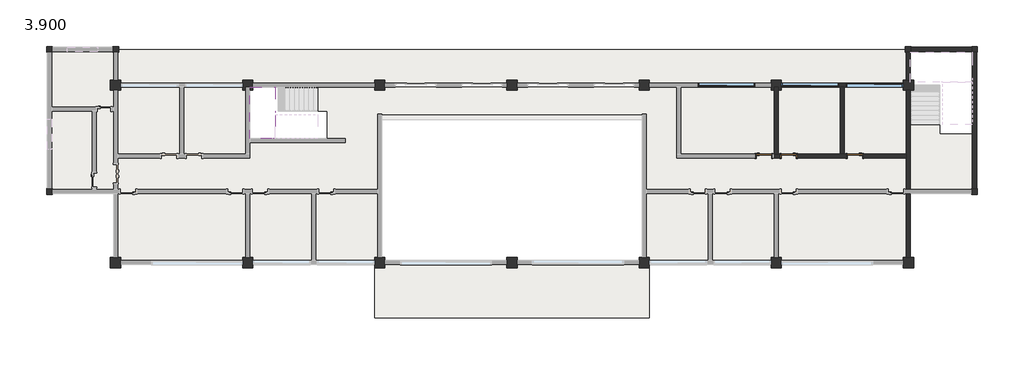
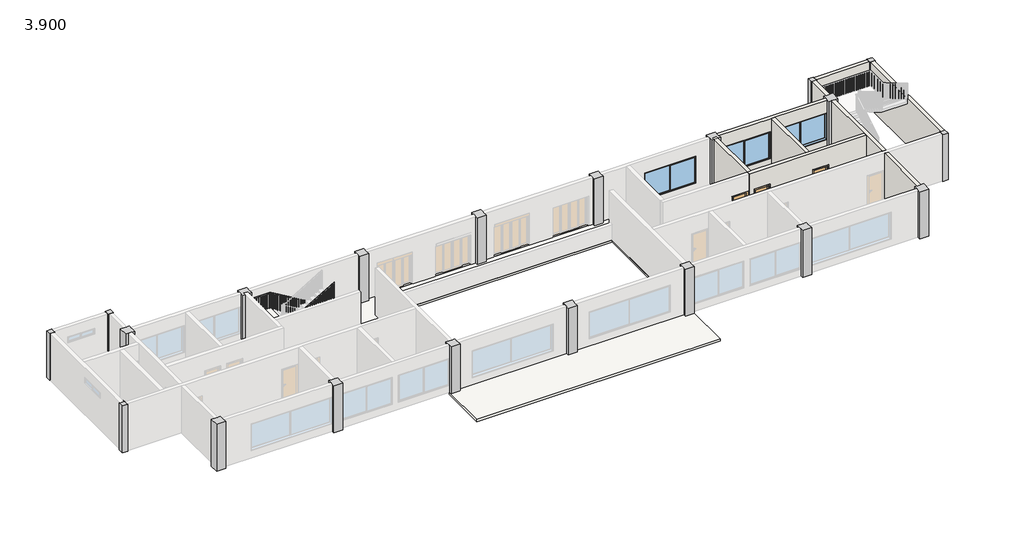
# One storey, part 2 of 4: 20 columns, 8 walls, 4 slabs, 3 doors, 3 windows, 1 railing.
"""IFC4 building model written with IfcOpenShell, lengths in millimetres."""

from ifc_helpers import new_model, si_unit, frame, origin, place, context, project, spatial, polyline, outline, extrude, faceted_brep, transform, mapped, element, save
from components import z1_350mmx350mm_bc06da4f, z1_350mmx350mm_cf0e5e6a, z2_600mmx600mm_ff006ee7, z2_600mmx600mm_cf732799, m1021_ed8d65da, m1021_7d4f1ed1, c3419_631f8b4f

model = new_model("IFC4")

# Units and contexts
model_context = context("Model", 3, world=origin())
ifc_project = project(units=[si_unit("LENGTHUNIT", "METRE", prefix="MILLI")], contexts=[model_context])

# Site, building, storey
site = spatial("IfcSite", under=ifc_project)
building = spatial("IfcBuilding", under=site)
storey = spatial("IfcBuildingStorey", under=building, Name="3.900", Elevation=3900.0)

# Columns
placement = place(None, origin())
z1_350mmx350mm_shape = z1_350mmx350mm_bc06da4f(model_context)
element("IfcColumn", 1, ObjectType="混凝土 - 矩形 - 柱 : Z1-350mmX350mm", at=placement, inside=storey, context=model_context, shape_type="MappedRepresentation", body=[
    mapped(z1_350mmx350mm_shape, transform((-7567.0109656, 7616.6095817, 0.0), x_axis=(1.0, 0.0, 0.0), y_axis=(0.0, 1.0, 0.0), z_axis=(0.0, 0.0, 1.0))),
])
element("IfcColumn", 2, ObjectType="混凝土 - 矩形 - 柱 : Z1-350mmX350mm", at=placement, inside=storey, context=model_context, shape_type="MappedRepresentation", body=[
    mapped(z1_350mmx350mm_shape, transform((-3667.0109656, 7616.6095817, 0.0), x_axis=(1.0, 0.0, 0.0), y_axis=(0.0, 1.0, 0.0), z_axis=(0.0, 0.0, 1.0))),
])
element("IfcColumn", 3, ObjectType="混凝土 - 矩形 - 柱 : Z1-350mmX350mm", at=placement, inside=storey, context=model_context, shape_type="MappedRepresentation", body=[
    mapped(z1_350mmx350mm_shape, transform((-7567.0109656, -783.3904183, 0.0), x_axis=(1.0, 0.0, 0.0), y_axis=(0.0, 1.0, 0.0), z_axis=(0.0, 0.0, 1.0))),
])
z1_350mmx350mm_2_shape = z1_350mmx350mm_cf0e5e6a(model_context)
element("IfcColumn", 4, ObjectType="混凝土 - 矩形 - 柱 : Z1-350mmX350mm", at=placement, inside=storey, context=model_context, shape_type="MappedRepresentation", body=[
    mapped(z1_350mmx350mm_2_shape, transform((47032.9890344, 7616.6095817, 0.0), x_axis=(-1.0, 0.0, 0.0), y_axis=(0.0, -1.0, 0.0), z_axis=(0.0, 0.0, 1.0))),
])
element("IfcColumn", 5, ObjectType="混凝土 - 矩形 - 柱 : Z1-350mmX350mm", at=placement, inside=storey, context=model_context, shape_type="MappedRepresentation", body=[
    mapped(z1_350mmx350mm_2_shape, transform((43132.9890344, 7616.6095817, 0.0), x_axis=(-1.0, 0.0, 0.0), y_axis=(0.0, -1.0, 0.0), z_axis=(0.0, 0.0, 1.0))),
])
element("IfcColumn", 6, ObjectType="混凝土 - 矩形 - 柱 : Z1-350mmX350mm", at=placement, inside=storey, context=model_context, shape_type="MappedRepresentation", body=[
    mapped(z1_350mmx350mm_2_shape, transform((47032.9890344, -783.3904183, 0.0), x_axis=(-1.0, 0.0, 0.0), y_axis=(0.0, -1.0, 0.0), z_axis=(0.0, 0.0, 1.0))),
])
z2_600mmx600mm_shape = z2_600mmx600mm_ff006ee7(model_context)
element("IfcColumn", 7, ObjectType="混凝土 - 矩形 - 柱 : Z2-600mmX600mm", at=placement, inside=storey, context=model_context, shape_type="MappedRepresentation", body=[
    mapped(z2_600mmx600mm_shape, transform((-3667.0109656, 5516.6095817, 0.0), x_axis=(1.0, 0.0, 0.0), y_axis=(0.0, 1.0, 0.0), z_axis=(0.0, 0.0, 1.0))),
])
element("IfcColumn", 8, ObjectType="混凝土 - 矩形 - 柱 : Z2-600mmX600mm", at=placement, inside=storey, context=model_context, shape_type="MappedRepresentation", body=[
    mapped(z2_600mmx600mm_shape, transform((4132.9890344, 5516.6095817, 0.0), x_axis=(1.0, 0.0, 0.0), y_axis=(0.0, 1.0, 0.0), z_axis=(0.0, 0.0, 1.0))),
])
element("IfcColumn", 9, ObjectType="混凝土 - 矩形 - 柱 : Z2-600mmX600mm", at=placement, inside=storey, context=model_context, shape_type="MappedRepresentation", body=[
    mapped(z2_600mmx600mm_shape, transform((11932.9890344, 5516.6095817, 0.0), x_axis=(1.0, 0.0, 0.0), y_axis=(0.0, 1.0, 0.0), z_axis=(0.0, 0.0, 1.0))),
])
element("IfcColumn", 10, ObjectType="混凝土 - 矩形 - 柱 : Z2-600mmX600mm", at=placement, inside=storey, context=model_context, shape_type="MappedRepresentation", body=[
    mapped(z2_600mmx600mm_shape, transform((-3667.0109656, -4983.3904183, 0.0), x_axis=(1.0, 0.0, 0.0), y_axis=(0.0, 1.0, 0.0), z_axis=(0.0, 0.0, 1.0))),
])
element("IfcColumn", 11, ObjectType="混凝土 - 矩形 - 柱 : Z2-600mmX600mm", at=placement, inside=storey, context=model_context, shape_type="MappedRepresentation", body=[
    mapped(z2_600mmx600mm_shape, transform((4132.9890344, -4983.3904183, 0.0), x_axis=(1.0, 0.0, 0.0), y_axis=(0.0, 1.0, 0.0), z_axis=(0.0, 0.0, 1.0))),
])
element("IfcColumn", 12, ObjectType="混凝土 - 矩形 - 柱 : Z2-600mmX600mm", at=placement, inside=storey, context=model_context, shape_type="MappedRepresentation", body=[
    mapped(z2_600mmx600mm_shape, transform((11932.9890344, -4983.3904183, 0.0), x_axis=(1.0, 0.0, 0.0), y_axis=(0.0, 1.0, 0.0), z_axis=(0.0, 0.0, 1.0))),
])
element("IfcColumn", 13, ObjectType="混凝土 - 矩形 - 柱 : Z2-600mmX600mm", at=placement, inside=storey, context=model_context, shape_type="MappedRepresentation", body=[
    mapped(z2_600mmx600mm_shape, transform((19732.9890344, 5516.6095817, 0.0), x_axis=(1.0, 0.0, 0.0), y_axis=(0.0, 1.0, 0.0), z_axis=(0.0, 0.0, 1.0))),
])
element("IfcColumn", 14, ObjectType="混凝土 - 矩形 - 柱 : Z2-600mmX600mm", at=placement, inside=storey, context=model_context, shape_type="MappedRepresentation", body=[
    mapped(z2_600mmx600mm_shape, transform((19732.9890344, -4983.3904183, 0.0), x_axis=(1.0, 0.0, 0.0), y_axis=(0.0, 1.0, 0.0), z_axis=(0.0, 0.0, 1.0))),
])
z2_600mmx600mm_2_shape = z2_600mmx600mm_cf732799(model_context)
element("IfcColumn", 15, ObjectType="混凝土 - 矩形 - 柱 : Z2-600mmX600mm", at=placement, inside=storey, context=model_context, shape_type="MappedRepresentation", body=[
    mapped(z2_600mmx600mm_2_shape, transform((43132.9890344, 5516.6095817, 0.0), x_axis=(-1.0, 0.0, 0.0), y_axis=(0.0, -1.0, 0.0), z_axis=(0.0, 0.0, 1.0))),
])
element("IfcColumn", 16, ObjectType="混凝土 - 矩形 - 柱 : Z2-600mmX600mm", at=placement, inside=storey, context=model_context, shape_type="MappedRepresentation", body=[
    mapped(z2_600mmx600mm_2_shape, transform((35332.9890344, 5516.6095817, 0.0), x_axis=(-1.0, 0.0, 0.0), y_axis=(0.0, -1.0, 0.0), z_axis=(0.0, 0.0, 1.0))),
])
element("IfcColumn", 17, ObjectType="混凝土 - 矩形 - 柱 : Z2-600mmX600mm", at=placement, inside=storey, context=model_context, shape_type="MappedRepresentation", body=[
    mapped(z2_600mmx600mm_2_shape, transform((27532.9890344, 5516.6095817, 0.0), x_axis=(-1.0, 0.0, 0.0), y_axis=(0.0, -1.0, 0.0), z_axis=(0.0, 0.0, 1.0))),
])
element("IfcColumn", 18, ObjectType="混凝土 - 矩形 - 柱 : Z2-600mmX600mm", at=placement, inside=storey, context=model_context, shape_type="MappedRepresentation", body=[
    mapped(z2_600mmx600mm_2_shape, transform((43132.9890344, -4983.3904183, 0.0), x_axis=(-1.0, 0.0, 0.0), y_axis=(0.0, -1.0, 0.0), z_axis=(0.0, 0.0, 1.0))),
])
element("IfcColumn", 19, ObjectType="混凝土 - 矩形 - 柱 : Z2-600mmX600mm", at=placement, inside=storey, context=model_context, shape_type="MappedRepresentation", body=[
    mapped(z2_600mmx600mm_2_shape, transform((35332.9890344, -4983.3904183, 0.0), x_axis=(-1.0, 0.0, 0.0), y_axis=(0.0, -1.0, 0.0), z_axis=(0.0, 0.0, 1.0))),
])
element("IfcColumn", 20, ObjectType="混凝土 - 矩形 - 柱 : Z2-600mmX600mm", at=placement, inside=storey, context=model_context, shape_type="MappedRepresentation", body=[
    mapped(z2_600mmx600mm_2_shape, transform((27532.9890344, -4983.3904183, 0.0), x_axis=(-1.0, 0.0, 0.0), y_axis=(0.0, -1.0, 0.0), z_axis=(0.0, 0.0, 1.0))),
])

# Doors
m1021_shape = m1021_ed8d65da(model_context)
element("IfcDoor", 21, ObjectType="单嵌板木门 1 : M1021", at=placement, inside=storey, context=model_context, shape_type="MappedRepresentation", body=[
    mapped(m1021_shape, transform((34597.9890344, 1316.6095817, 3900.0), x_axis=(1.0, 0.0, 0.0), y_axis=(0.0, 1.0, 0.0), z_axis=(0.0, 0.0, 1.0))),
])
m1021_2_shape = m1021_7d4f1ed1(model_context)
element("IfcDoor", 22, ObjectType="单嵌板木门 1 : M1021", at=placement, inside=storey, context=model_context, shape_type="MappedRepresentation", body=[
    mapped(m1021_2_shape, transform((36067.9890344, 1316.6095817, 3900.0), x_axis=(-1.0, 0.0, 0.0), y_axis=(0.0, -1.0, 0.0), z_axis=(0.0, 0.0, 1.0))),
])
element("IfcDoor", 23, ObjectType="单嵌板木门 1 : M1021", at=placement, inside=storey, context=model_context, shape_type="MappedRepresentation", body=[
    mapped(m1021_2_shape, transform((39967.9890344, 1316.6095817, 3900.0), x_axis=(-1.0, 0.0, 0.0), y_axis=(0.0, -1.0, 0.0), z_axis=(0.0, 0.0, 1.0))),
])

# Railing
element("IfcRailing", 24, ObjectType="1100mm", at=placement, inside=storey, context=model_context, shape_type="SolidModel", body=[
    faceted_brep([(8272.9890344, 5351.2095817, 5165.0), (8272.9890344, 5351.2095817, 5106.9642857), (8272.9890344, 5401.2095817, 5106.9642857), (8272.9890344, 5401.2095817, 5165.0), (5752.9890344, 5351.2095817, 6650.0), (5739.3526707, 5351.2095817, 6600.0), (5739.3526707, 5401.2095817, 6600.0), (5752.9890344, 5401.2095817, 6650.0), (4303.3890344, 5351.2095817, 6650.0), (4303.3890344, 5351.2095817, 6600.0), (4253.3890344, 5401.2095817, 6600.0), (4253.3890344, 5401.2095817, 6650.0), (4303.3890344, 2387.0095817, 6650.0), (4303.3890344, 2387.0095817, 6600.0), (4253.3890344, 2337.0095817, 6600.0), (4253.3890344, 2337.0095817, 6650.0), (5472.9890344, 2387.0095817, 6650.0), (5486.625398, 2387.0095817, 6600.0), (5486.625398, 2337.0095817, 6600.0), (5472.9890344, 2337.0095817, 6650.0), (5752.9890344, 2387.0095817, 6815.0), (5778.3736497, 2387.0095817, 6771.9230769), (5778.3736497, 2337.0095817, 6771.9230769), (5752.9890344, 2337.0095817, 6815.0), (8272.9890344, 2387.0095817, 8300.0), (8272.9890344, 2337.0095817, 8300.0), (8272.9890344, 2337.0095817, 8241.9642857), (8272.9890344, 2387.0095817, 8241.9642857)], [[[0, 1, 2, 3]], [[1, 0, 4, 5]], [[2, 1, 5, 6]], [[3, 2, 6, 7]], [[0, 3, 7, 4]], [[5, 4, 8, 9]], [[6, 5, 9, 10]], [[7, 6, 10, 11]], [[4, 7, 11, 8]], [[9, 8, 12, 13]], [[10, 9, 13, 14]], [[11, 10, 14, 15]], [[8, 11, 15, 12]], [[13, 12, 16, 17]], [[14, 13, 17, 18]], [[15, 14, 18, 19]], [[12, 15, 19, 16]], [[17, 16, 20, 21]], [[18, 17, 21, 22]], [[19, 18, 22, 23]], [[16, 19, 23, 20]], [[24, 25, 26, 27]], [[21, 20, 24, 27]], [[22, 21, 27, 26]], [[23, 22, 26, 25]], [[20, 23, 25, 24]]]),
    extrude(outline(polyline([(8193.3482143, 8190.4890344), (7035.0, 8190.4890344), (7035.0, 8215.4890344), (8208.0803571, 8215.4890344), (8193.3482143, 8190.4890344)])), frame((0.0, 2349.5095817, 0.0), z_axis=(0.0, 1.0, 0.0), x_axis=(0.0, 0.0, 1.0)), (0.0, 0.0, 1.0), 25.0),
    extrude(outline(polyline([(8110.8482143, 8050.4890344), (7035.0, 8050.4890344), (7035.0, 8075.4890344), (8125.5803571, 8075.4890344), (8110.8482143, 8050.4890344)])), frame((0.0, 2349.5095817, 0.0), z_axis=(0.0, 1.0, 0.0), x_axis=(0.0, 0.0, 1.0)), (0.0, 0.0, 1.0), 25.0),
    extrude(outline(polyline([(8028.3482143, 7910.4890344), (6870.0, 7910.4890344), (6870.0, 7935.4890344), (8043.0803571, 7935.4890344), (8028.3482143, 7910.4890344)])), frame((0.0, 2349.5095817, 0.0), z_axis=(0.0, 1.0, 0.0), x_axis=(0.0, 0.0, 1.0)), (0.0, 0.0, 1.0), 25.0),
    extrude(outline(polyline([(7945.8482143, 7770.4890344), (6870.0, 7770.4890344), (6870.0, 7795.4890344), (7960.5803571, 7795.4890344), (7945.8482143, 7770.4890344)])), frame((0.0, 2349.5095817, 0.0), z_axis=(0.0, 1.0, 0.0), x_axis=(0.0, 0.0, 1.0)), (0.0, 0.0, 1.0), 25.0),
    extrude(outline(polyline([(7863.3482143, 7630.4890344), (6705.0, 7630.4890344), (6705.0, 7655.4890344), (7878.0803571, 7655.4890344), (7863.3482143, 7630.4890344)])), frame((0.0, 2349.5095817, 0.0), z_axis=(0.0, 1.0, 0.0), x_axis=(0.0, 0.0, 1.0)), (0.0, 0.0, 1.0), 25.0),
    extrude(outline(polyline([(7780.8482143, 7490.4890344), (6705.0, 7490.4890344), (6705.0, 7515.4890344), (7795.5803571, 7515.4890344), (7780.8482143, 7490.4890344)])), frame((0.0, 2349.5095817, 0.0), z_axis=(0.0, 1.0, 0.0), x_axis=(0.0, 0.0, 1.0)), (0.0, 0.0, 1.0), 25.0),
    extrude(outline(polyline([(7698.3482143, 7350.4890344), (6540.0, 7350.4890344), (6540.0, 7375.4890344), (7713.0803571, 7375.4890344), (7698.3482143, 7350.4890344)])), frame((0.0, 2349.5095817, 0.0), z_axis=(0.0, 1.0, 0.0), x_axis=(0.0, 0.0, 1.0)), (0.0, 0.0, 1.0), 25.0),
    extrude(outline(polyline([(7615.8482143, 7210.4890344), (6540.0, 7210.4890344), (6540.0, 7235.4890344), (7630.5803571, 7235.4890344), (7615.8482143, 7210.4890344)])), frame((0.0, 2349.5095817, 0.0), z_axis=(0.0, 1.0, 0.0), x_axis=(0.0, 0.0, 1.0)), (0.0, 0.0, 1.0), 25.0),
    extrude(outline(polyline([(7533.3482143, 7070.4890344), (6375.0, 7070.4890344), (6375.0, 7095.4890344), (7548.0803571, 7095.4890344), (7533.3482143, 7070.4890344)])), frame((0.0, 2349.5095817, 0.0), z_axis=(0.0, 1.0, 0.0), x_axis=(0.0, 0.0, 1.0)), (0.0, 0.0, 1.0), 25.0),
    extrude(outline(polyline([(7450.8482143, 6930.4890344), (6375.0, 6930.4890344), (6375.0, 6955.4890344), (7465.5803571, 6955.4890344), (7450.8482143, 6930.4890344)])), frame((0.0, 2349.5095817, 0.0), z_axis=(0.0, 1.0, 0.0), x_axis=(0.0, 0.0, 1.0)), (0.0, 0.0, 1.0), 25.0),
    extrude(outline(polyline([(7368.3482143, 6790.4890344), (6210.0, 6790.4890344), (6210.0, 6815.4890344), (7383.0803571, 6815.4890344), (7368.3482143, 6790.4890344)])), frame((0.0, 2349.5095817, 0.0), z_axis=(0.0, 1.0, 0.0), x_axis=(0.0, 0.0, 1.0)), (0.0, 0.0, 1.0), 25.0),
    extrude(outline(polyline([(7285.8482143, 6650.4890344), (6210.0, 6650.4890344), (6210.0, 6675.4890344), (7300.5803571, 6675.4890344), (7285.8482143, 6650.4890344)])), frame((0.0, 2349.5095817, 0.0), z_axis=(0.0, 1.0, 0.0), x_axis=(0.0, 0.0, 1.0)), (0.0, 0.0, 1.0), 25.0),
    extrude(outline(polyline([(7203.3482143, 6510.4890344), (6045.0, 6510.4890344), (6045.0, 6535.4890344), (7218.0803571, 6535.4890344), (7203.3482143, 6510.4890344)])), frame((0.0, 2349.5095817, 0.0), z_axis=(0.0, 1.0, 0.0), x_axis=(0.0, 0.0, 1.0)), (0.0, 0.0, 1.0), 25.0),
    extrude(outline(polyline([(7120.8482143, 6370.4890344), (6045.0, 6370.4890344), (6045.0, 6395.4890344), (7135.5803571, 6395.4890344), (7120.8482143, 6370.4890344)])), frame((0.0, 2349.5095817, 0.0), z_axis=(0.0, 1.0, 0.0), x_axis=(0.0, 0.0, 1.0)), (0.0, 0.0, 1.0), 25.0),
    extrude(outline(polyline([(7038.3482143, 6230.4890344), (5880.0, 6230.4890344), (5880.0, 6255.4890344), (7053.0803571, 6255.4890344), (7038.3482143, 6230.4890344)])), frame((0.0, 2349.5095817, 0.0), z_axis=(0.0, 1.0, 0.0), x_axis=(0.0, 0.0, 1.0)), (0.0, 0.0, 1.0), 25.0),
    extrude(outline(polyline([(6955.8482143, 6090.4890344), (5880.0, 6090.4890344), (5880.0, 6115.4890344), (6970.5803571, 6115.4890344), (6955.8482143, 6090.4890344)])), frame((0.0, 2349.5095817, 0.0), z_axis=(0.0, 1.0, 0.0), x_axis=(0.0, 0.0, 1.0)), (0.0, 0.0, 1.0), 25.0),
    extrude(outline(polyline([(6873.3482143, 5950.4890344), (5715.0, 5950.4890344), (5715.0, 5975.4890344), (6888.0803571, 5975.4890344), (6873.3482143, 5950.4890344)])), frame((0.0, 2349.5095817, 0.0), z_axis=(0.0, 1.0, 0.0), x_axis=(0.0, 0.0, 1.0)), (0.0, 0.0, 1.0), 25.0),
    extrude(outline(polyline([(6790.8482143, 5810.4890344), (5715.0, 5810.4890344), (5715.0, 5835.4890344), (6805.5803571, 5835.4890344), (6790.8482143, 5810.4890344)])), frame((0.0, 2349.5095817, 0.0), z_axis=(0.0, 1.0, 0.0), x_axis=(0.0, 0.0, 1.0)), (0.0, 0.0, 1.0), 25.0),
    extrude(outline(polyline([(6746.8875, 5735.8890344), (5550.0, 5735.8890344), (5550.0, 5760.8890344), (6761.6196429, 5760.8890344), (6746.8875, 5735.8890344)])), frame((0.0, 2349.5095817, 0.0), z_axis=(0.0, 1.0, 0.0), x_axis=(0.0, 0.0, 1.0)), (0.0, 0.0, 1.0), 25.0),
    extrude(outline(polyline([(6664.3875, 5595.8890344), (5550.0, 5595.8890344), (5550.0, 5620.8890344), (6679.1196429, 5620.8890344), (6664.3875, 5595.8890344)])), frame((0.0, 2349.5095817, 0.0), z_axis=(0.0, 1.0, 0.0), x_axis=(0.0, 0.0, 1.0)), (0.0, 0.0, 1.0), 25.0),
    extrude(outline(polyline([(5455.8890344, 2349.5095817), (5455.8890344, 2374.5095817), (5480.8890344, 2374.5095817), (5480.8890344, 2349.5095817), (5455.8890344, 2349.5095817)])), frame((0.0, 0.0, 5550.0), z_axis=(0.0, 0.0, 1.0), x_axis=(1.0, 0.0, 0.0)), (0.0, 0.0, 1.0), 1050.0),
    extrude(outline(polyline([(5315.8890344, 2349.5095817), (5315.8890344, 2374.5095817), (5340.8890344, 2374.5095817), (5340.8890344, 2349.5095817), (5315.8890344, 2349.5095817)])), frame((0.0, 0.0, 5550.0), z_axis=(0.0, 0.0, 1.0), x_axis=(1.0, 0.0, 0.0)), (0.0, 0.0, 1.0), 1050.0),
    extrude(outline(polyline([(5175.8890344, 2349.5095817), (5175.8890344, 2374.5095817), (5200.8890344, 2374.5095817), (5200.8890344, 2349.5095817), (5175.8890344, 2349.5095817)])), frame((0.0, 0.0, 5550.0), z_axis=(0.0, 0.0, 1.0), x_axis=(1.0, 0.0, 0.0)), (0.0, 0.0, 1.0), 1050.0),
    extrude(outline(polyline([(5035.8890344, 2349.5095817), (5035.8890344, 2374.5095817), (5060.8890344, 2374.5095817), (5060.8890344, 2349.5095817), (5035.8890344, 2349.5095817)])), frame((0.0, 0.0, 5550.0), z_axis=(0.0, 0.0, 1.0), x_axis=(1.0, 0.0, 0.0)), (0.0, 0.0, 1.0), 1050.0),
    extrude(outline(polyline([(4895.8890344, 2349.5095817), (4895.8890344, 2374.5095817), (4920.8890344, 2374.5095817), (4920.8890344, 2349.5095817), (4895.8890344, 2349.5095817)])), frame((0.0, 0.0, 5550.0), z_axis=(0.0, 0.0, 1.0), x_axis=(1.0, 0.0, 0.0)), (0.0, 0.0, 1.0), 1050.0),
    extrude(outline(polyline([(4755.8890344, 2349.5095817), (4755.8890344, 2374.5095817), (4780.8890344, 2374.5095817), (4780.8890344, 2349.5095817), (4755.8890344, 2349.5095817)])), frame((0.0, 0.0, 5550.0), z_axis=(0.0, 0.0, 1.0), x_axis=(1.0, 0.0, 0.0)), (0.0, 0.0, 1.0), 1050.0),
    extrude(outline(polyline([(4615.8890344, 2349.5095817), (4615.8890344, 2374.5095817), (4640.8890344, 2374.5095817), (4640.8890344, 2349.5095817), (4615.8890344, 2349.5095817)])), frame((0.0, 0.0, 5550.0), z_axis=(0.0, 0.0, 1.0), x_axis=(1.0, 0.0, 0.0)), (0.0, 0.0, 1.0), 1050.0),
    extrude(outline(polyline([(4475.8890344, 2349.5095817), (4475.8890344, 2374.5095817), (4500.8890344, 2374.5095817), (4500.8890344, 2349.5095817), (4475.8890344, 2349.5095817)])), frame((0.0, 0.0, 5550.0), z_axis=(0.0, 0.0, 1.0), x_axis=(1.0, 0.0, 0.0)), (0.0, 0.0, 1.0), 1050.0),
    extrude(outline(polyline([(4335.8890344, 2349.5095817), (4335.8890344, 2374.5095817), (4360.8890344, 2374.5095817), (4360.8890344, 2349.5095817), (4335.8890344, 2349.5095817)])), frame((0.0, 0.0, 5550.0), z_axis=(0.0, 0.0, 1.0), x_axis=(1.0, 0.0, 0.0)), (0.0, 0.0, 1.0), 1050.0),
    extrude(outline(polyline([(4265.8890344, 2378.7095817), (4290.8890344, 2378.7095817), (4290.8890344, 2353.7095817), (4265.8890344, 2353.7095817), (4265.8890344, 2378.7095817)])), frame((0.0, 0.0, 5550.0), z_axis=(0.0, 0.0, 1.0), x_axis=(1.0, 0.0, 0.0)), (0.0, 0.0, 1.0), 1050.0),
    extrude(outline(polyline([(4265.8890344, 2518.7095817), (4290.8890344, 2518.7095817), (4290.8890344, 2493.7095817), (4265.8890344, 2493.7095817), (4265.8890344, 2518.7095817)])), frame((0.0, 0.0, 5550.0), z_axis=(0.0, 0.0, 1.0), x_axis=(1.0, 0.0, 0.0)), (0.0, 0.0, 1.0), 1050.0),
    extrude(outline(polyline([(4265.8890344, 2658.7095817), (4290.8890344, 2658.7095817), (4290.8890344, 2633.7095817), (4265.8890344, 2633.7095817), (4265.8890344, 2658.7095817)])), frame((0.0, 0.0, 5550.0), z_axis=(0.0, 0.0, 1.0), x_axis=(1.0, 0.0, 0.0)), (0.0, 0.0, 1.0), 1050.0),
    extrude(outline(polyline([(4265.8890344, 2798.7095817), (4290.8890344, 2798.7095817), (4290.8890344, 2773.7095817), (4265.8890344, 2773.7095817), (4265.8890344, 2798.7095817)])), frame((0.0, 0.0, 5550.0), z_axis=(0.0, 0.0, 1.0), x_axis=(1.0, 0.0, 0.0)), (0.0, 0.0, 1.0), 1050.0),
    extrude(outline(polyline([(4265.8890344, 2938.7095817), (4290.8890344, 2938.7095817), (4290.8890344, 2913.7095817), (4265.8890344, 2913.7095817), (4265.8890344, 2938.7095817)])), frame((0.0, 0.0, 5550.0), z_axis=(0.0, 0.0, 1.0), x_axis=(1.0, 0.0, 0.0)), (0.0, 0.0, 1.0), 1050.0),
    extrude(outline(polyline([(4265.8890344, 3078.7095817), (4290.8890344, 3078.7095817), (4290.8890344, 3053.7095817), (4265.8890344, 3053.7095817), (4265.8890344, 3078.7095817)])), frame((0.0, 0.0, 5550.0), z_axis=(0.0, 0.0, 1.0), x_axis=(1.0, 0.0, 0.0)), (0.0, 0.0, 1.0), 1050.0),
    extrude(outline(polyline([(4265.8890344, 3218.7095817), (4290.8890344, 3218.7095817), (4290.8890344, 3193.7095817), (4265.8890344, 3193.7095817), (4265.8890344, 3218.7095817)])), frame((0.0, 0.0, 5550.0), z_axis=(0.0, 0.0, 1.0), x_axis=(1.0, 0.0, 0.0)), (0.0, 0.0, 1.0), 1050.0),
    extrude(outline(polyline([(4265.8890344, 3358.7095817), (4290.8890344, 3358.7095817), (4290.8890344, 3333.7095817), (4265.8890344, 3333.7095817), (4265.8890344, 3358.7095817)])), frame((0.0, 0.0, 5550.0), z_axis=(0.0, 0.0, 1.0), x_axis=(1.0, 0.0, 0.0)), (0.0, 0.0, 1.0), 1050.0),
    extrude(outline(polyline([(4265.8890344, 3498.7095817), (4290.8890344, 3498.7095817), (4290.8890344, 3473.7095817), (4265.8890344, 3473.7095817), (4265.8890344, 3498.7095817)])), frame((0.0, 0.0, 5550.0), z_axis=(0.0, 0.0, 1.0), x_axis=(1.0, 0.0, 0.0)), (0.0, 0.0, 1.0), 1050.0),
    extrude(outline(polyline([(4265.8890344, 3638.7095817), (4290.8890344, 3638.7095817), (4290.8890344, 3613.7095817), (4265.8890344, 3613.7095817), (4265.8890344, 3638.7095817)])), frame((0.0, 0.0, 5550.0), z_axis=(0.0, 0.0, 1.0), x_axis=(1.0, 0.0, 0.0)), (0.0, 0.0, 1.0), 1050.0),
    extrude(outline(polyline([(4265.8890344, 3778.7095817), (4290.8890344, 3778.7095817), (4290.8890344, 3753.7095817), (4265.8890344, 3753.7095817), (4265.8890344, 3778.7095817)])), frame((0.0, 0.0, 5550.0), z_axis=(0.0, 0.0, 1.0), x_axis=(1.0, 0.0, 0.0)), (0.0, 0.0, 1.0), 1050.0),
    extrude(outline(polyline([(4265.8890344, 3918.7095817), (4290.8890344, 3918.7095817), (4290.8890344, 3893.7095817), (4265.8890344, 3893.7095817), (4265.8890344, 3918.7095817)])), frame((0.0, 0.0, 5550.0), z_axis=(0.0, 0.0, 1.0), x_axis=(1.0, 0.0, 0.0)), (0.0, 0.0, 1.0), 1050.0),
    extrude(outline(polyline([(4265.8890344, 4058.7095817), (4290.8890344, 4058.7095817), (4290.8890344, 4033.7095817), (4265.8890344, 4033.7095817), (4265.8890344, 4058.7095817)])), frame((0.0, 0.0, 5550.0), z_axis=(0.0, 0.0, 1.0), x_axis=(1.0, 0.0, 0.0)), (0.0, 0.0, 1.0), 1050.0),
    extrude(outline(polyline([(4265.8890344, 4198.7095817), (4290.8890344, 4198.7095817), (4290.8890344, 4173.7095817), (4265.8890344, 4173.7095817), (4265.8890344, 4198.7095817)])), frame((0.0, 0.0, 5550.0), z_axis=(0.0, 0.0, 1.0), x_axis=(1.0, 0.0, 0.0)), (0.0, 0.0, 1.0), 1050.0),
    extrude(outline(polyline([(4265.8890344, 4338.7095817), (4290.8890344, 4338.7095817), (4290.8890344, 4313.7095817), (4265.8890344, 4313.7095817), (4265.8890344, 4338.7095817)])), frame((0.0, 0.0, 5550.0), z_axis=(0.0, 0.0, 1.0), x_axis=(1.0, 0.0, 0.0)), (0.0, 0.0, 1.0), 1050.0),
    extrude(outline(polyline([(4265.8890344, 4478.7095817), (4290.8890344, 4478.7095817), (4290.8890344, 4453.7095817), (4265.8890344, 4453.7095817), (4265.8890344, 4478.7095817)])), frame((0.0, 0.0, 5550.0), z_axis=(0.0, 0.0, 1.0), x_axis=(1.0, 0.0, 0.0)), (0.0, 0.0, 1.0), 1050.0),
    extrude(outline(polyline([(4265.8890344, 4618.7095817), (4290.8890344, 4618.7095817), (4290.8890344, 4593.7095817), (4265.8890344, 4593.7095817), (4265.8890344, 4618.7095817)])), frame((0.0, 0.0, 5550.0), z_axis=(0.0, 0.0, 1.0), x_axis=(1.0, 0.0, 0.0)), (0.0, 0.0, 1.0), 1050.0),
    extrude(outline(polyline([(4265.8890344, 4758.7095817), (4290.8890344, 4758.7095817), (4290.8890344, 4733.7095817), (4265.8890344, 4733.7095817), (4265.8890344, 4758.7095817)])), frame((0.0, 0.0, 5550.0), z_axis=(0.0, 0.0, 1.0), x_axis=(1.0, 0.0, 0.0)), (0.0, 0.0, 1.0), 1050.0),
    extrude(outline(polyline([(4265.8890344, 4898.7095817), (4290.8890344, 4898.7095817), (4290.8890344, 4873.7095817), (4265.8890344, 4873.7095817), (4265.8890344, 4898.7095817)])), frame((0.0, 0.0, 5550.0), z_axis=(0.0, 0.0, 1.0), x_axis=(1.0, 0.0, 0.0)), (0.0, 0.0, 1.0), 1050.0),
    extrude(outline(polyline([(4265.8890344, 5038.7095817), (4290.8890344, 5038.7095817), (4290.8890344, 5013.7095817), (4265.8890344, 5013.7095817), (4265.8890344, 5038.7095817)])), frame((0.0, 0.0, 5550.0), z_axis=(0.0, 0.0, 1.0), x_axis=(1.0, 0.0, 0.0)), (0.0, 0.0, 1.0), 1050.0),
    extrude(outline(polyline([(4265.8890344, 5178.7095817), (4290.8890344, 5178.7095817), (4290.8890344, 5153.7095817), (4265.8890344, 5153.7095817), (4265.8890344, 5178.7095817)])), frame((0.0, 0.0, 5550.0), z_axis=(0.0, 0.0, 1.0), x_axis=(1.0, 0.0, 0.0)), (0.0, 0.0, 1.0), 1050.0),
    extrude(outline(polyline([(4265.8890344, 5318.7095817), (4290.8890344, 5318.7095817), (4290.8890344, 5293.7095817), (4265.8890344, 5293.7095817), (4265.8890344, 5318.7095817)])), frame((0.0, 0.0, 5550.0), z_axis=(0.0, 0.0, 1.0), x_axis=(1.0, 0.0, 0.0)), (0.0, 0.0, 1.0), 1050.0),
    extrude(outline(polyline([(4295.4890344, 5388.7095817), (4295.4890344, 5363.7095817), (4270.4890344, 5363.7095817), (4270.4890344, 5388.7095817), (4295.4890344, 5388.7095817)])), frame((0.0, 0.0, 5550.0), z_axis=(0.0, 0.0, 1.0), x_axis=(1.0, 0.0, 0.0)), (0.0, 0.0, 1.0), 1050.0),
    extrude(outline(polyline([(4435.4890344, 5388.7095817), (4435.4890344, 5363.7095817), (4410.4890344, 5363.7095817), (4410.4890344, 5388.7095817), (4435.4890344, 5388.7095817)])), frame((0.0, 0.0, 5550.0), z_axis=(0.0, 0.0, 1.0), x_axis=(1.0, 0.0, 0.0)), (0.0, 0.0, 1.0), 1050.0),
    extrude(outline(polyline([(4575.4890344, 5388.7095817), (4575.4890344, 5363.7095817), (4550.4890344, 5363.7095817), (4550.4890344, 5388.7095817), (4575.4890344, 5388.7095817)])), frame((0.0, 0.0, 5550.0), z_axis=(0.0, 0.0, 1.0), x_axis=(1.0, 0.0, 0.0)), (0.0, 0.0, 1.0), 1050.0),
    extrude(outline(polyline([(4715.4890344, 5388.7095817), (4715.4890344, 5363.7095817), (4690.4890344, 5363.7095817), (4690.4890344, 5388.7095817), (4715.4890344, 5388.7095817)])), frame((0.0, 0.0, 5550.0), z_axis=(0.0, 0.0, 1.0), x_axis=(1.0, 0.0, 0.0)), (0.0, 0.0, 1.0), 1050.0),
    extrude(outline(polyline([(4855.4890344, 5388.7095817), (4855.4890344, 5363.7095817), (4830.4890344, 5363.7095817), (4830.4890344, 5388.7095817), (4855.4890344, 5388.7095817)])), frame((0.0, 0.0, 5550.0), z_axis=(0.0, 0.0, 1.0), x_axis=(1.0, 0.0, 0.0)), (0.0, 0.0, 1.0), 1050.0),
    extrude(outline(polyline([(4995.4890344, 5388.7095817), (4995.4890344, 5363.7095817), (4970.4890344, 5363.7095817), (4970.4890344, 5388.7095817), (4995.4890344, 5388.7095817)])), frame((0.0, 0.0, 5550.0), z_axis=(0.0, 0.0, 1.0), x_axis=(1.0, 0.0, 0.0)), (0.0, 0.0, 1.0), 1050.0),
    extrude(outline(polyline([(5135.4890344, 5388.7095817), (5135.4890344, 5363.7095817), (5110.4890344, 5363.7095817), (5110.4890344, 5388.7095817), (5135.4890344, 5388.7095817)])), frame((0.0, 0.0, 5550.0), z_axis=(0.0, 0.0, 1.0), x_axis=(1.0, 0.0, 0.0)), (0.0, 0.0, 1.0), 1050.0),
    extrude(outline(polyline([(5275.4890344, 5388.7095817), (5275.4890344, 5363.7095817), (5250.4890344, 5363.7095817), (5250.4890344, 5388.7095817), (5275.4890344, 5388.7095817)])), frame((0.0, 0.0, 5550.0), z_axis=(0.0, 0.0, 1.0), x_axis=(1.0, 0.0, 0.0)), (0.0, 0.0, 1.0), 1050.0),
    extrude(outline(polyline([(5415.4890344, 5388.7095817), (5415.4890344, 5363.7095817), (5390.4890344, 5363.7095817), (5390.4890344, 5388.7095817), (5415.4890344, 5388.7095817)])), frame((0.0, 0.0, 5550.0), z_axis=(0.0, 0.0, 1.0), x_axis=(1.0, 0.0, 0.0)), (0.0, 0.0, 1.0), 1050.0),
    extrude(outline(polyline([(5555.4890344, 5388.7095817), (5555.4890344, 5363.7095817), (5530.4890344, 5363.7095817), (5530.4890344, 5388.7095817), (5555.4890344, 5388.7095817)])), frame((0.0, 0.0, 5550.0), z_axis=(0.0, 0.0, 1.0), x_axis=(1.0, 0.0, 0.0)), (0.0, 0.0, 1.0), 1050.0),
    extrude(outline(polyline([(5695.4890344, 5388.7095817), (5695.4890344, 5363.7095817), (5670.4890344, 5363.7095817), (5670.4890344, 5388.7095817), (5695.4890344, 5388.7095817)])), frame((0.0, 0.0, 5550.0), z_axis=(0.0, 0.0, 1.0), x_axis=(1.0, 0.0, 0.0)), (0.0, 0.0, 1.0), 1050.0),
    extrude(outline(polyline([(5385.0, 5835.4890344), (6543.3482143, 5835.4890344), (6558.0803571, 5810.4890344), (5385.0, 5810.4890344), (5385.0, 5835.4890344)])), frame((0.0, 5363.7095817, 0.0), z_axis=(0.0, 1.0, 0.0), x_axis=(0.0, 0.0, 1.0)), (0.0, 0.0, 1.0), 25.0),
    extrude(outline(polyline([(5385.0, 5975.4890344), (6460.8482143, 5975.4890344), (6475.5803571, 5950.4890344), (5385.0, 5950.4890344), (5385.0, 5975.4890344)])), frame((0.0, 5363.7095817, 0.0), z_axis=(0.0, 1.0, 0.0), x_axis=(0.0, 0.0, 1.0)), (0.0, 0.0, 1.0), 25.0),
    extrude(outline(polyline([(5220.0, 6115.4890344), (6378.3482143, 6115.4890344), (6393.0803571, 6090.4890344), (5220.0, 6090.4890344), (5220.0, 6115.4890344)])), frame((0.0, 5363.7095817, 0.0), z_axis=(0.0, 1.0, 0.0), x_axis=(0.0, 0.0, 1.0)), (0.0, 0.0, 1.0), 25.0),
    extrude(outline(polyline([(5220.0, 6255.4890344), (6295.8482143, 6255.4890344), (6310.5803571, 6230.4890344), (5220.0, 6230.4890344), (5220.0, 6255.4890344)])), frame((0.0, 5363.7095817, 0.0), z_axis=(0.0, 1.0, 0.0), x_axis=(0.0, 0.0, 1.0)), (0.0, 0.0, 1.0), 25.0),
    extrude(outline(polyline([(5055.0, 6395.4890344), (6213.3482143, 6395.4890344), (6228.0803571, 6370.4890344), (5055.0, 6370.4890344), (5055.0, 6395.4890344)])), frame((0.0, 5363.7095817, 0.0), z_axis=(0.0, 1.0, 0.0), x_axis=(0.0, 0.0, 1.0)), (0.0, 0.0, 1.0), 25.0),
    extrude(outline(polyline([(5055.0, 6535.4890344), (6130.8482143, 6535.4890344), (6145.5803571, 6510.4890344), (5055.0, 6510.4890344), (5055.0, 6535.4890344)])), frame((0.0, 5363.7095817, 0.0), z_axis=(0.0, 1.0, 0.0), x_axis=(0.0, 0.0, 1.0)), (0.0, 0.0, 1.0), 25.0),
    extrude(outline(polyline([(4890.0, 6675.4890344), (6048.3482143, 6675.4890344), (6063.0803571, 6650.4890344), (4890.0, 6650.4890344), (4890.0, 6675.4890344)])), frame((0.0, 5363.7095817, 0.0), z_axis=(0.0, 1.0, 0.0), x_axis=(0.0, 0.0, 1.0)), (0.0, 0.0, 1.0), 25.0),
    extrude(outline(polyline([(4890.0, 6815.4890344), (5965.8482143, 6815.4890344), (5980.5803571, 6790.4890344), (4890.0, 6790.4890344), (4890.0, 6815.4890344)])), frame((0.0, 5363.7095817, 0.0), z_axis=(0.0, 1.0, 0.0), x_axis=(0.0, 0.0, 1.0)), (0.0, 0.0, 1.0), 25.0),
    extrude(outline(polyline([(4725.0, 6955.4890344), (5883.3482143, 6955.4890344), (5898.0803571, 6930.4890344), (4725.0, 6930.4890344), (4725.0, 6955.4890344)])), frame((0.0, 5363.7095817, 0.0), z_axis=(0.0, 1.0, 0.0), x_axis=(0.0, 0.0, 1.0)), (0.0, 0.0, 1.0), 25.0),
    extrude(outline(polyline([(4725.0, 7095.4890344), (5800.8482143, 7095.4890344), (5815.5803571, 7070.4890344), (4725.0, 7070.4890344), (4725.0, 7095.4890344)])), frame((0.0, 5363.7095817, 0.0), z_axis=(0.0, 1.0, 0.0), x_axis=(0.0, 0.0, 1.0)), (0.0, 0.0, 1.0), 25.0),
    extrude(outline(polyline([(4560.0, 7235.4890344), (5718.3482143, 7235.4890344), (5733.0803571, 7210.4890344), (4560.0, 7210.4890344), (4560.0, 7235.4890344)])), frame((0.0, 5363.7095817, 0.0), z_axis=(0.0, 1.0, 0.0), x_axis=(0.0, 0.0, 1.0)), (0.0, 0.0, 1.0), 25.0),
    extrude(outline(polyline([(4560.0, 7375.4890344), (5635.8482143, 7375.4890344), (5650.5803571, 7350.4890344), (4560.0, 7350.4890344), (4560.0, 7375.4890344)])), frame((0.0, 5363.7095817, 0.0), z_axis=(0.0, 1.0, 0.0), x_axis=(0.0, 0.0, 1.0)), (0.0, 0.0, 1.0), 25.0),
    extrude(outline(polyline([(4395.0, 7515.4890344), (5553.3482143, 7515.4890344), (5568.0803571, 7490.4890344), (4395.0, 7490.4890344), (4395.0, 7515.4890344)])), frame((0.0, 5363.7095817, 0.0), z_axis=(0.0, 1.0, 0.0), x_axis=(0.0, 0.0, 1.0)), (0.0, 0.0, 1.0), 25.0),
    extrude(outline(polyline([(4395.0, 7655.4890344), (5470.8482143, 7655.4890344), (5485.5803571, 7630.4890344), (4395.0, 7630.4890344), (4395.0, 7655.4890344)])), frame((0.0, 5363.7095817, 0.0), z_axis=(0.0, 1.0, 0.0), x_axis=(0.0, 0.0, 1.0)), (0.0, 0.0, 1.0), 25.0),
    extrude(outline(polyline([(4230.0, 7795.4890344), (5388.3482143, 7795.4890344), (5403.0803571, 7770.4890344), (4230.0, 7770.4890344), (4230.0, 7795.4890344)])), frame((0.0, 5363.7095817, 0.0), z_axis=(0.0, 1.0, 0.0), x_axis=(0.0, 0.0, 1.0)), (0.0, 0.0, 1.0), 25.0),
    extrude(outline(polyline([(4230.0, 7935.4890344), (5305.8482143, 7935.4890344), (5320.5803571, 7910.4890344), (4230.0, 7910.4890344), (4230.0, 7935.4890344)])), frame((0.0, 5363.7095817, 0.0), z_axis=(0.0, 1.0, 0.0), x_axis=(0.0, 0.0, 1.0)), (0.0, 0.0, 1.0), 25.0),
    extrude(outline(polyline([(4065.0, 8075.4890344), (5223.3482143, 8075.4890344), (5238.0803571, 8050.4890344), (4065.0, 8050.4890344), (4065.0, 8075.4890344)])), frame((0.0, 5363.7095817, 0.0), z_axis=(0.0, 1.0, 0.0), x_axis=(0.0, 0.0, 1.0)), (0.0, 0.0, 1.0), 25.0),
    extrude(outline(polyline([(4065.0, 8215.4890344), (5140.8482143, 8215.4890344), (5155.5803571, 8190.4890344), (4065.0, 8190.4890344), (4065.0, 8215.4890344)])), frame((0.0, 5363.7095817, 0.0), z_axis=(0.0, 1.0, 0.0), x_axis=(0.0, 0.0, 1.0)), (0.0, 0.0, 1.0), 25.0),
    extrude(outline(polyline([(6749.5982143, 5740.4890344), (5550.0, 5740.4890344), (5550.0, 5765.4890344), (6764.3303571, 5765.4890344), (6749.5982143, 5740.4890344)])), frame((0.0, 2349.5095817, 0.0), z_axis=(0.0, 1.0, 0.0), x_axis=(0.0, 0.0, 1.0)), (0.0, 0.0, 1.0), 25.0),
    extrude(outline(polyline([(4265.8890344, 2374.5095817), (4290.8890344, 2374.5095817), (4290.8890344, 2349.5095817), (4265.8890344, 2349.5095817), (4265.8890344, 2374.5095817)])), frame((0.0, 0.0, 5550.0), z_axis=(0.0, 0.0, 1.0), x_axis=(1.0, 0.0, 0.0)), (0.0, 0.0, 1.0), 1050.0),
    extrude(outline(polyline([(4290.8890344, 5388.7095817), (4290.8890344, 5363.7095817), (4265.8890344, 5363.7095817), (4265.8890344, 5388.7095817), (4290.8890344, 5388.7095817)])), frame((0.0, 0.0, 5550.0), z_axis=(0.0, 0.0, 1.0), x_axis=(1.0, 0.0, 0.0)), (0.0, 0.0, 1.0), 1050.0),
    extrude(outline(polyline([(5550.0, 5765.4890344), (6584.5982143, 5765.4890344), (6599.3303571, 5740.4890344), (5550.0, 5740.4890344), (5550.0, 5765.4890344)])), frame((0.0, 5363.7095817, 0.0), z_axis=(0.0, 1.0, 0.0), x_axis=(0.0, 0.0, 1.0)), (0.0, 0.0, 1.0), 25.0),
    extrude(outline(polyline([(8227.2321429, 8247.9890344), (7035.0, 8247.9890344), (7035.0, 8272.9890344), (8241.9642857, 8272.9890344), (8227.2321429, 8247.9890344)])), frame((0.0, 2349.5095817, 0.0), z_axis=(0.0, 1.0, 0.0), x_axis=(0.0, 0.0, 1.0)), (0.0, 0.0, 1.0), 25.0),
    extrude(outline(polyline([(4065.0, 8272.9890344), (5106.9642857, 8272.9890344), (5121.6964286, 8247.9890344), (4065.0, 8247.9890344), (4065.0, 8272.9890344)])), frame((0.0, 5363.7095817, 0.0), z_axis=(0.0, 1.0, 0.0), x_axis=(0.0, 0.0, 1.0)), (0.0, 0.0, 1.0), 25.0),
])

# Slabs
element("IfcSlab", 25, ObjectType="150mm厚钢筋混凝土", at=placement, inside=storey, context=model_context, shape_type="SweptSolid", body=[
    extrude(outline(polyline([(-3547.0109656, 7496.6095817), (-3547.0109656, 5396.6095817), (4252.9890344, 5396.6095817), (4252.9890344, 2346.6095817), (8832.9890344, 2346.6095817), (8832.9890344, 3966.6095817), (8272.9890344, 3966.6095817), (8272.9890344, 5396.6095817), (43252.9890344, 5396.6095817), (43252.9890344, 3176.6095817), (44992.9890344, 3176.6095817), (44992.9890344, 2616.6095817), (46912.9890344, 2616.6095817), (46912.9890344, -663.3904183), (43012.9890344, -663.3904183), (43012.9890344, -4863.3904183), (27412.9890344, -4863.3904183), (27412.9890344, 3481.6095817), (12052.9890344, 3481.6095817), (12052.9890344, -4863.3904183), (-3547.0109656, -4863.3904183), (-3547.0109656, -663.3904183), (-7447.0109656, -663.3904183), (-7447.0109656, 7496.6095817), (-3547.0109656, 7496.6095817)])), frame((0.0, 0.0, 3750.0), z_axis=(0.0, 0.0, 1.0), x_axis=(1.0, 0.0, 0.0)), (0.0, 0.0, 1.0), 150.0),
])
element("IfcSlab", 26, ObjectType="150mm厚钢筋混凝土", at=placement, inside=storey, context=model_context, shape_type="SweptSolid", body=[
    extrude(outline(polyline([(-3547.0109656, 7616.6095817), (43012.9890344, 7616.6095817), (43012.9890344, 5636.6095817), (-3547.0109656, 5636.6095817), (-3547.0109656, 7616.6095817)])), frame((0.0, 0.0, 3750.0), z_axis=(0.0, 0.0, 1.0), x_axis=(1.0, 0.0, 0.0)), (0.0, 0.0, 1.0), 150.0),
])
element("IfcSlab", 27, ObjectType="300mm 厚度", at=placement, inside=storey, context=model_context, shape_type="Brep", body=[
    faceted_brep([(5752.9890344, 3961.6095817, 5550.0), (5752.9890344, 5401.6095817, 5550.0), (5686.625398, 5401.6095817, 5550.0), (4252.9890344, 5401.6095817, 5550.0), (4252.9890344, 2336.6095817, 5550.0), (5539.3526707, 2336.6095817, 5550.0), (5752.9890344, 2336.6095817, 5550.0), (5752.9890344, 3776.6095817, 5550.0), (5752.9890344, 3961.6095817, 5250.0), (5752.9890344, 3961.6095817, 5210.8928571), (5752.9890344, 5401.6095817, 5210.8928571), (5752.9890344, 5401.6095817, 5385.0), (5686.625398, 5401.6095817, 5250.0), (4252.9890344, 5401.6095817, 5250.0), (4252.9890344, 2336.6095817, 5250.0), (5539.3526707, 2336.6095817, 5250.0), (5752.9890344, 2336.6095817, 5375.8928571), (5752.9890344, 3776.6095817, 5375.8928571), (5752.9890344, 3776.6095817, 5250.0), (5539.3526707, 3776.6095817, 5250.0), (5686.625398, 3961.6095817, 5250.0)], [[[0, 1, 2, 3, 4, 5, 6, 7]], [[1, 0, 8, 9, 10, 11]], [[1, 11, 10, 12, 13, 3, 2]], [[4, 3, 13, 14]], [[4, 14, 15, 16, 6, 5]], [[7, 6, 16, 17]], [[0, 7, 17, 18, 8]], [[18, 19, 15, 14, 13, 12, 20, 8]], [[19, 18, 17]], [[20, 12, 10, 9]], [[8, 20, 9]], [[15, 19, 17, 16]]]),
])
element("IfcSlab", 28, ObjectType="150mm厚钢筋混凝土", at=placement, inside=storey, context=model_context, shape_type="SweptSolid", body=[
    extrude(outline(polyline([(27832.9890344, -5103.3904183), (27832.9890344, -8260.3904183), (11632.9890344, -8260.3904183), (11632.9890344, -5103.3904183), (27832.9890344, -5103.3904183)])), frame((0.0, 0.0, 3750.0), z_axis=(0.0, 0.0, 1.0), x_axis=(1.0, 0.0, 0.0)), (0.0, 0.0, 1.0), 150.0),
])

# Walls
element("IfcWall", 29, ObjectType="240mm厚墙", at=placement, inside=storey, context=model_context, shape_type="SweptSolid", body=[
    extrude(outline(polyline([(46857.9890344, 7496.6095817), (43307.9890344, 7496.6095817), (43307.9890344, 7736.6095817), (46857.9890344, 7736.6095817), (46857.9890344, 7496.6095817)])), frame((0.0, 0.0, 3900.0), z_axis=(0.0, 0.0, 1.0), x_axis=(1.0, 0.0, 0.0)), (0.0, 0.0, 1.0), 3300.0),
])
element("IfcWall", 30, ObjectType="240mm厚墙", at=placement, inside=storey, context=model_context, shape_type="SweptSolid", body=[
    extrude(outline(polyline([(46912.9890344, -608.3904183), (46912.9890344, 7441.6095817), (47152.9890344, 7441.6095817), (47152.9890344, -608.3904183), (46912.9890344, -608.3904183)])), frame((0.0, 0.0, 3900.0), z_axis=(0.0, 0.0, 1.0), x_axis=(1.0, 0.0, 0.0)), (0.0, 0.0, 1.0), 3300.0),
])
element("IfcWall", 31, ObjectType="240mm厚墙", at=placement, inside=storey, context=model_context, shape_type="Brep", body=[
    faceted_brep([(43252.9890344, 5216.6095817, 3900.0), (43252.9890344, 5216.6095817, 7200.0), (43252.9890344, -663.3904183, 7200.0), (43252.9890344, -663.3904183, 3900.0), (43012.9890344, 5216.6095817, 7200.0), (43012.9890344, 5216.6095817, 3900.0), (43012.9890344, 1436.6095817, 3900.0), (43012.9890344, 1196.6095817, 3900.0), (43012.9890344, -663.3904183, 3900.0), (43012.9890344, -663.3904183, 7200.0), (43012.9890344, 1196.6095817, 7200.0), (43012.9890344, 1436.6095817, 7200.0)], [[[0, 1, 2, 3]], [[4, 5, 6, 7, 8, 9, 10, 11]], [[5, 0, 3, 8, 7, 6]], [[1, 0, 5, 4]], [[1, 4, 11, 10, 9, 2]], [[3, 2, 9, 8]]]),
    faceted_brep([(43252.9890344, -4683.3904183, 7200.0), (43252.9890344, -4683.3904183, 3900.0), (43252.9890344, -903.3904183, 3900.0), (43252.9890344, -903.3904183, 7200.0), (43012.9890344, -4683.3904183, 3900.0), (43012.9890344, -4683.3904183, 7200.0), (43012.9890344, -903.3904183, 7200.0), (43012.9890344, -903.3904183, 3900.0)], [[[0, 1, 2, 3]], [[4, 5, 6, 7]], [[1, 4, 7, 2]], [[5, 0, 3, 6]], [[1, 0, 5, 4]], [[3, 2, 7, 6]]]),
])
element("IfcWall", 32, ObjectType="240mm厚墙", at=placement, inside=storey, context=model_context, shape_type="SweptSolid", body=[
    extrude(outline(polyline([(43252.9890344, 7441.6095817), (43252.9890344, 5816.6095817), (43012.9890344, 5816.6095817), (43012.9890344, 7441.6095817), (43252.9890344, 7441.6095817)])), frame((0.0, 0.0, 3900.0), z_axis=(0.0, 0.0, 1.0), x_axis=(1.0, 0.0, 0.0)), (0.0, 0.0, 1.0), 3300.0),
])
element("IfcWall", 33, ObjectType="240mm厚墙", at=placement, inside=storey, context=model_context, shape_type="Brep", body=[
    faceted_brep([(35632.9890344, 5636.6095817, 3900.0), (35632.9890344, 5636.6095817, 4400.0), (39032.9890344, 5636.6095817, 4400.0), (39032.9890344, 5636.6095817, 6300.0), (35632.9890344, 5636.6095817, 6300.0), (35632.9890344, 5636.6095817, 7200.0), (42832.9890344, 5636.6095817, 7200.0), (42832.9890344, 5636.6095817, 6300.0), (39432.9890344, 5636.6095817, 6300.0), (39432.9890344, 5636.6095817, 4400.0), (42832.9890344, 5636.6095817, 4400.0), (42832.9890344, 5636.6095817, 3900.0), (39032.9890344, 5396.6095817, 4400.0), (35632.9890344, 5396.6095817, 4400.0), (35632.9890344, 5396.6095817, 3900.0), (39112.9890344, 5396.6095817, 3900.0), (39352.9890344, 5396.6095817, 3900.0), (42832.9890344, 5396.6095817, 3900.0), (42832.9890344, 5396.6095817, 4400.0), (39432.9890344, 5396.6095817, 4400.0), (39432.9890344, 5396.6095817, 6300.0), (42832.9890344, 5396.6095817, 6300.0), (42832.9890344, 5396.6095817, 7200.0), (39352.9890344, 5396.6095817, 7200.0), (39112.9890344, 5396.6095817, 7200.0), (35632.9890344, 5396.6095817, 7200.0), (35632.9890344, 5396.6095817, 6300.0), (39032.9890344, 5396.6095817, 6300.0)], [[[0, 1, 2, 3, 4, 5, 6, 7, 8, 9, 10, 11]], [[12, 13, 14, 15, 16, 17, 18, 19, 20, 21, 22, 23, 24, 25, 26, 27]], [[0, 11, 17, 16, 15, 14]], [[26, 25, 5, 4]], [[14, 13, 1, 0]], [[6, 5, 25, 24, 23, 22]], [[7, 6, 22, 21]], [[11, 10, 18, 17]], [[19, 18, 10, 9]], [[20, 19, 9, 8]], [[21, 20, 8, 7]], [[2, 1, 13, 12]], [[3, 2, 12, 27]], [[4, 3, 27, 26]]]),
])
element("IfcWall", 34, ObjectType="240mm厚墙", at=placement, inside=storey, context=model_context, shape_type="Brep", body=[
    faceted_brep([(35212.9890344, 1436.6095817, 7200.0), (35452.9890344, 1436.6095817, 7200.0), (39112.9890344, 1436.6095817, 7200.0), (39352.9890344, 1436.6095817, 7200.0), (43012.9890344, 1436.6095817, 7200.0), (43012.9890344, 1436.6095817, 3900.0), (40467.9890344, 1436.6095817, 3900.0), (40467.9890344, 1436.6095817, 6000.0), (39467.9890344, 1436.6095817, 6000.0), (39467.9890344, 1436.6095817, 3900.0), (39352.9890344, 1436.6095817, 3900.0), (39112.9890344, 1436.6095817, 3900.0), (36567.9890344, 1436.6095817, 3900.0), (36567.9890344, 1436.6095817, 6000.0), (35567.9890344, 1436.6095817, 6000.0), (35567.9890344, 1436.6095817, 3900.0), (35452.9890344, 1436.6095817, 3900.0), (35212.9890344, 1436.6095817, 3900.0), (43012.9890344, 1196.6095817, 7200.0), (35212.9890344, 1196.6095817, 7200.0), (35212.9890344, 1196.6095817, 3900.0), (35567.9890344, 1196.6095817, 3900.0), (35567.9890344, 1196.6095817, 6000.0), (36567.9890344, 1196.6095817, 6000.0), (36567.9890344, 1196.6095817, 3900.0), (39467.9890344, 1196.6095817, 3900.0), (39467.9890344, 1196.6095817, 6000.0), (40467.9890344, 1196.6095817, 6000.0), (40467.9890344, 1196.6095817, 3900.0), (43012.9890344, 1196.6095817, 3900.0)], [[[0, 1, 2, 3, 4, 5, 6, 7, 8, 9, 10, 11, 12, 13, 14, 15, 16, 17]], [[18, 19, 20, 21, 22, 23, 24, 25, 26, 27, 28, 29]], [[5, 29, 28, 6]], [[20, 17, 16, 15, 21]], [[24, 12, 11, 10, 9, 25]], [[4, 3, 2, 1, 0, 19, 18]], [[5, 4, 18, 29]], [[0, 17, 20, 19]], [[14, 22, 21, 15]], [[22, 14, 13, 23]], [[23, 13, 12, 24]], [[8, 26, 25, 9]], [[26, 8, 7, 27]], [[27, 7, 6, 28]]]),
])
element("IfcWall", 35, ObjectType="240mm厚墙", at=placement, inside=storey, context=model_context, shape_type="SweptSolid", body=[
    extrude(outline(polyline([(35452.9890344, 5396.6095817), (35452.9890344, 1436.6095817), (35212.9890344, 1436.6095817), (35212.9890344, 5396.6095817), (35452.9890344, 5396.6095817)])), frame((0.0, 0.0, 3900.0), z_axis=(0.0, 0.0, 1.0), x_axis=(1.0, 0.0, 0.0)), (0.0, 0.0, 1.0), 3300.0),
])
element("IfcWall", 36, ObjectType="240mm厚墙", at=placement, inside=storey, context=model_context, shape_type="SweptSolid", body=[
    extrude(outline(polyline([(39112.9890344, 1436.6095817), (39112.9890344, 5396.6095817), (39352.9890344, 5396.6095817), (39352.9890344, 1436.6095817), (39112.9890344, 1436.6095817)])), frame((0.0, 0.0, 3900.0), z_axis=(0.0, 0.0, 1.0), x_axis=(1.0, 0.0, 0.0)), (0.0, 0.0, 1.0), 3300.0),
])

# Windows
c3419_shape = c3419_631f8b4f(model_context)
element("IfcWindow", 37, ObjectType="推拉窗6 : C3419", at=placement, inside=storey, context=model_context, shape_type="MappedRepresentation", body=[
    mapped(c3419_shape, transform((41123.4640344, 5583.4830192, 3800.0), x_axis=(1.0, 0.0, 0.0), y_axis=(0.0, 1.0, 0.0), z_axis=(0.0, 0.0, 1.0))),
])
element("IfcWindow", 38, ObjectType="推拉窗6 : C3419", at=placement, inside=storey, context=model_context, shape_type="MappedRepresentation", body=[
    mapped(c3419_shape, transform((37342.5140344, 5449.7361442, 3800.0), x_axis=(-1.0, 0.0, 0.0), y_axis=(0.0, -1.0, 0.0), z_axis=(0.0, 0.0, 1.0))),
])
element("IfcWindow", 39, ObjectType="推拉窗6 : C3419", at=placement, inside=storey, context=model_context, shape_type="MappedRepresentation", body=[
    mapped(c3419_shape, transform((32402.5140344, 5449.7361442, 3800.0), x_axis=(-1.0, 0.0, 0.0), y_axis=(0.0, -1.0, 0.0), z_axis=(0.0, 0.0, 1.0))),
])

save(model, "model.ifc")
